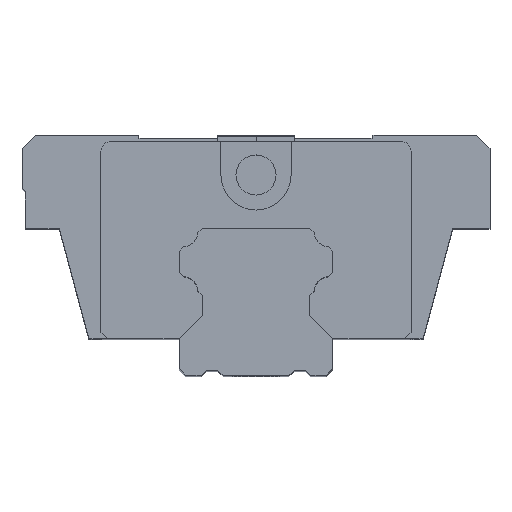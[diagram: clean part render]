
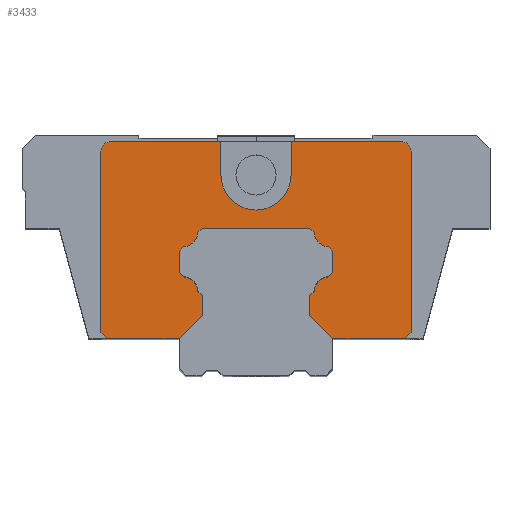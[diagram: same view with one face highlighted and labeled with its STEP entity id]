
A CAD part, top view. The second image highlights one B-rep face of the part: STEP entity #3433.
In plain terms, the highlighted planar face has unit normal (0, 0, 1).
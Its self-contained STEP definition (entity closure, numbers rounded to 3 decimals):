
#832=DIRECTION('',(0.,1.,0.));
#833=VECTOR('',#832,5.);
#834=CARTESIAN_POINT('',(-5.25,30.,42.));
#835=LINE('',#834,#833);
#836=CARTESIAN_POINT('',(0.,30.,42.));
#837=DIRECTION('',(0.,0.,-1.));
#838=DIRECTION('',(1.,0.,0.));
#839=AXIS2_PLACEMENT_3D('',#836,#837,#838);
#841=DIRECTION('',(0.,-1.,0.));
#842=VECTOR('',#841,5.);
#843=CARTESIAN_POINT('',(5.25,35.,42.));
#844=LINE('',#843,#842);
#845=DIRECTION('',(-1.,0.,0.));
#846=VECTOR('',#845,16.45);
#847=CARTESIAN_POINT('',(21.7,35.,42.));
#848=LINE('',#847,#846);
#849=CARTESIAN_POINT('',(21.7,33.5,42.));
#850=DIRECTION('',(0.,0.,1.));
#851=DIRECTION('',(1.,0.,0.));
#852=AXIS2_PLACEMENT_3D('',#849,#850,#851);
#854=DIRECTION('',(0.,1.,0.));
#855=VECTOR('',#854,27.);
#856=CARTESIAN_POINT('',(23.2,6.5,42.));
#857=LINE('',#856,#855);
#858=DIRECTION('',(0.707,0.707,0.));
#859=VECTOR('',#858,1.414);
#860=CARTESIAN_POINT('',(22.2,5.5,42.));
#861=LINE('',#860,#859);
#862=DIRECTION('',(1.,0.,0.));
#863=VECTOR('',#862,10.7);
#864=CARTESIAN_POINT('',(11.5,5.5,42.));
#865=LINE('',#864,#863);
#866=DIRECTION('',(0.707,-0.707,0.));
#867=VECTOR('',#866,4.879);
#868=CARTESIAN_POINT('',(8.05,8.95,42.));
#869=LINE('',#868,#867);
#870=DIRECTION('',(0.,-1.,0.));
#871=VECTOR('',#870,3.);
#872=CARTESIAN_POINT('',(8.05,11.95,42.));
#873=LINE('',#872,#871);
#874=DIRECTION('',(-0.707,-0.707,0.));
#875=VECTOR('',#874,0.918);
#876=CARTESIAN_POINT('',(8.699,12.599,42.));
#877=LINE('',#876,#875);
#878=CARTESIAN_POINT('',(10.995,12.455,42.));
#879=DIRECTION('',(0.,0.,1.));
#880=DIRECTION('',(-0.063,0.998,0.));
#881=AXIS2_PLACEMENT_3D('',#878,#879,#880);
#883=DIRECTION('',(-0.707,-0.707,0.));
#884=VECTOR('',#883,0.918);
#885=CARTESIAN_POINT('',(11.5,15.4,42.));
#886=LINE('',#885,#884);
#887=DIRECTION('',(0.,-1.,0.));
#888=VECTOR('',#887,3.15);
#889=CARTESIAN_POINT('',(11.5,18.55,42.));
#890=LINE('',#889,#888);
#891=DIRECTION('',(0.707,-0.707,0.));
#892=VECTOR('',#891,0.918);
#893=CARTESIAN_POINT('',(10.851,19.199,42.));
#894=LINE('',#893,#892);
#895=CARTESIAN_POINT('',(10.995,21.495,42.));
#896=DIRECTION('',(0.,0.,1.));
#897=DIRECTION('',(-0.998,-0.063,0.));
#898=AXIS2_PLACEMENT_3D('',#895,#896,#897);
#900=DIRECTION('',(0.707,-0.707,0.));
#901=VECTOR('',#900,0.918);
#902=CARTESIAN_POINT('',(8.05,22.,42.));
#903=LINE('',#902,#901);
#904=DIRECTION('',(1.,0.,0.));
#905=VECTOR('',#904,16.1);
#906=CARTESIAN_POINT('',(-8.05,22.,42.));
#907=LINE('',#906,#905);
#908=DIRECTION('',(0.707,0.707,0.));
#909=VECTOR('',#908,0.918);
#910=CARTESIAN_POINT('',(-8.699,21.351,42.));
#911=LINE('',#910,#909);
#912=CARTESIAN_POINT('',(-10.995,21.495,42.));
#913=DIRECTION('',(0.,0.,1.));
#914=DIRECTION('',(0.063,-0.998,0.));
#915=AXIS2_PLACEMENT_3D('',#912,#913,#914);
#917=DIRECTION('',(0.707,0.707,0.));
#918=VECTOR('',#917,0.918);
#919=CARTESIAN_POINT('',(-11.5,18.55,42.));
#920=LINE('',#919,#918);
#921=DIRECTION('',(0.,1.,0.));
#922=VECTOR('',#921,3.15);
#923=CARTESIAN_POINT('',(-11.5,15.4,42.));
#924=LINE('',#923,#922);
#925=DIRECTION('',(-0.707,0.707,0.));
#926=VECTOR('',#925,0.918);
#927=CARTESIAN_POINT('',(-10.851,14.751,42.));
#928=LINE('',#927,#926);
#929=CARTESIAN_POINT('',(-10.995,12.455,42.));
#930=DIRECTION('',(0.,0.,1.));
#931=DIRECTION('',(0.998,0.063,0.));
#932=AXIS2_PLACEMENT_3D('',#929,#930,#931);
#934=DIRECTION('',(-0.707,0.707,0.));
#935=VECTOR('',#934,0.918);
#936=CARTESIAN_POINT('',(-8.05,11.95,42.));
#937=LINE('',#936,#935);
#938=DIRECTION('',(0.,1.,0.));
#939=VECTOR('',#938,3.);
#940=CARTESIAN_POINT('',(-8.05,8.95,42.));
#941=LINE('',#940,#939);
#942=DIRECTION('',(0.707,0.707,0.));
#943=VECTOR('',#942,4.879);
#944=CARTESIAN_POINT('',(-11.5,5.5,42.));
#945=LINE('',#944,#943);
#946=DIRECTION('',(1.,0.,0.));
#947=VECTOR('',#946,10.7);
#948=CARTESIAN_POINT('',(-22.2,5.5,42.));
#949=LINE('',#948,#947);
#950=DIRECTION('',(0.707,-0.707,0.));
#951=VECTOR('',#950,1.414);
#952=CARTESIAN_POINT('',(-23.2,6.5,42.));
#953=LINE('',#952,#951);
#954=DIRECTION('',(0.,-1.,0.));
#955=VECTOR('',#954,27.);
#956=CARTESIAN_POINT('',(-23.2,33.5,42.));
#957=LINE('',#956,#955);
#958=CARTESIAN_POINT('',(-21.7,33.5,42.));
#959=DIRECTION('',(0.,0.,1.));
#960=DIRECTION('',(0.,1.,0.));
#961=AXIS2_PLACEMENT_3D('',#958,#959,#960);
#963=DIRECTION('',(-1.,0.,0.));
#964=VECTOR('',#963,16.45);
#965=CARTESIAN_POINT('',(-5.25,35.,42.));
#966=LINE('',#965,#964);
#2075=CARTESIAN_POINT('',(-5.25,30.,42.));
#2076=CARTESIAN_POINT('',(-5.25,35.,42.));
#2077=VERTEX_POINT('',#2075);
#2078=VERTEX_POINT('',#2076);
#2079=CARTESIAN_POINT('',(-21.7,35.,42.));
#2080=VERTEX_POINT('',#2079);
#2081=CARTESIAN_POINT('',(-23.2,33.5,42.));
#2082=VERTEX_POINT('',#2081);
#2083=CARTESIAN_POINT('',(-23.2,6.5,42.));
#2084=VERTEX_POINT('',#2083);
#2085=CARTESIAN_POINT('',(-22.2,5.5,42.));
#2086=VERTEX_POINT('',#2085);
#2087=CARTESIAN_POINT('',(-11.5,5.5,42.));
#2088=VERTEX_POINT('',#2087);
#2089=CARTESIAN_POINT('',(-8.05,8.95,42.));
#2090=VERTEX_POINT('',#2089);
#2091=CARTESIAN_POINT('',(-8.05,11.95,42.));
#2092=VERTEX_POINT('',#2091);
#2093=CARTESIAN_POINT('',(-8.699,12.599,42.));
#2094=VERTEX_POINT('',#2093);
#2095=CARTESIAN_POINT('',(-10.851,14.751,42.));
#2096=VERTEX_POINT('',#2095);
#2097=CARTESIAN_POINT('',(-11.5,15.4,42.));
#2098=VERTEX_POINT('',#2097);
#2099=CARTESIAN_POINT('',(-11.5,18.55,42.));
#2100=VERTEX_POINT('',#2099);
#2101=CARTESIAN_POINT('',(-10.851,19.199,42.));
#2102=VERTEX_POINT('',#2101);
#2103=CARTESIAN_POINT('',(-8.699,21.351,42.));
#2104=VERTEX_POINT('',#2103);
#2105=CARTESIAN_POINT('',(-8.05,22.,42.));
#2106=VERTEX_POINT('',#2105);
#2107=CARTESIAN_POINT('',(8.05,22.,42.));
#2108=VERTEX_POINT('',#2107);
#2109=CARTESIAN_POINT('',(8.699,21.351,42.));
#2110=VERTEX_POINT('',#2109);
#2111=CARTESIAN_POINT('',(10.851,19.199,42.));
#2112=VERTEX_POINT('',#2111);
#2113=CARTESIAN_POINT('',(11.5,18.55,42.));
#2114=VERTEX_POINT('',#2113);
#2115=CARTESIAN_POINT('',(11.5,15.4,42.));
#2116=VERTEX_POINT('',#2115);
#2117=CARTESIAN_POINT('',(10.851,14.751,42.));
#2118=VERTEX_POINT('',#2117);
#2119=CARTESIAN_POINT('',(8.699,12.599,42.));
#2120=VERTEX_POINT('',#2119);
#2121=CARTESIAN_POINT('',(8.05,11.95,42.));
#2122=VERTEX_POINT('',#2121);
#2123=CARTESIAN_POINT('',(8.05,8.95,42.));
#2124=VERTEX_POINT('',#2123);
#2125=CARTESIAN_POINT('',(11.5,5.5,42.));
#2126=VERTEX_POINT('',#2125);
#2127=CARTESIAN_POINT('',(22.2,5.5,42.));
#2128=VERTEX_POINT('',#2127);
#2129=CARTESIAN_POINT('',(23.2,6.5,42.));
#2130=VERTEX_POINT('',#2129);
#2131=CARTESIAN_POINT('',(23.2,33.5,42.));
#2132=VERTEX_POINT('',#2131);
#2133=CARTESIAN_POINT('',(21.7,35.,42.));
#2134=VERTEX_POINT('',#2133);
#2135=CARTESIAN_POINT('',(5.25,35.,42.));
#2136=VERTEX_POINT('',#2135);
#2137=CARTESIAN_POINT('',(5.25,30.,42.));
#2138=VERTEX_POINT('',#2137);
#3387=CARTESIAN_POINT('',(-35.,36.,42.));
#3388=DIRECTION('',(0.,0.,1.));
#3389=DIRECTION('',(1.,0.,0.));
#3390=AXIS2_PLACEMENT_3D('',#3387,#3388,#3389);
#3391=PLANE('',#3390);
#3393=ORIENTED_EDGE('',*,*,#3392,.F.);
#3394=ORIENTED_EDGE('',*,*,#3378,.F.);
#3395=ORIENTED_EDGE('',*,*,#3303,.F.);
#3396=ORIENTED_EDGE('',*,*,#3290,.F.);
#3398=ORIENTED_EDGE('',*,*,#3397,.F.);
#3400=ORIENTED_EDGE('',*,*,#3399,.F.);
#3402=ORIENTED_EDGE('',*,*,#3401,.F.);
#3403=ORIENTED_EDGE('',*,*,#2597,.F.);
#3404=ORIENTED_EDGE('',*,*,#2582,.F.);
#3405=ORIENTED_EDGE('',*,*,#2567,.F.);
#3406=ORIENTED_EDGE('',*,*,#2552,.F.);
#3407=ORIENTED_EDGE('',*,*,#2537,.F.);
#3408=ORIENTED_EDGE('',*,*,#2522,.F.);
#3409=ORIENTED_EDGE('',*,*,#2507,.F.);
#3410=ORIENTED_EDGE('',*,*,#2492,.F.);
#3411=ORIENTED_EDGE('',*,*,#2477,.F.);
#3412=ORIENTED_EDGE('',*,*,#2462,.F.);
#3413=ORIENTED_EDGE('',*,*,#2447,.F.);
#3414=ORIENTED_EDGE('',*,*,#2432,.F.);
#3415=ORIENTED_EDGE('',*,*,#2417,.F.);
#3416=ORIENTED_EDGE('',*,*,#2402,.F.);
#3417=ORIENTED_EDGE('',*,*,#2387,.F.);
#3418=ORIENTED_EDGE('',*,*,#2372,.F.);
#3419=ORIENTED_EDGE('',*,*,#2357,.F.);
#3420=ORIENTED_EDGE('',*,*,#2342,.F.);
#3421=ORIENTED_EDGE('',*,*,#2327,.F.);
#3422=ORIENTED_EDGE('',*,*,#2312,.F.);
#3423=ORIENTED_EDGE('',*,*,#2297,.F.);
#3425=ORIENTED_EDGE('',*,*,#3424,.F.);
#3427=ORIENTED_EDGE('',*,*,#3426,.F.);
#3429=ORIENTED_EDGE('',*,*,#3428,.F.);
#3430=ORIENTED_EDGE('',*,*,#3268,.F.);
#3431=EDGE_LOOP('',(#3393,#3394,#3395,#3396,#3398,#3400,#3402,#3403,#3404,#3405,
#3406,#3407,#3408,#3409,#3410,#3411,#3412,#3413,#3414,#3415,#3416,#3417,#3418,
#3419,#3420,#3421,#3422,#3423,#3425,#3427,#3429,#3430));
#3432=FACE_OUTER_BOUND('',#3431,.F.);
#3433=ADVANCED_FACE('',(#3432),#3391,.T.);
#840=CIRCLE('',#839,5.25);
#853=CIRCLE('',#852,1.5);
#882=CIRCLE('',#881,2.3);
#899=CIRCLE('',#898,2.3);
#916=CIRCLE('',#915,2.3);
#933=CIRCLE('',#932,2.3);
#962=CIRCLE('',#961,1.5);
#2297=EDGE_CURVE('',#2086,#2088,#949,.T.);
#2312=EDGE_CURVE('',#2088,#2090,#945,.T.);
#2327=EDGE_CURVE('',#2090,#2092,#941,.T.);
#2342=EDGE_CURVE('',#2092,#2094,#937,.T.);
#2357=EDGE_CURVE('',#2094,#2096,#933,.T.);
#2372=EDGE_CURVE('',#2096,#2098,#928,.T.);
#2387=EDGE_CURVE('',#2098,#2100,#924,.T.);
#2402=EDGE_CURVE('',#2100,#2102,#920,.T.);
#2417=EDGE_CURVE('',#2102,#2104,#916,.T.);
#2432=EDGE_CURVE('',#2104,#2106,#911,.T.);
#2447=EDGE_CURVE('',#2106,#2108,#907,.T.);
#2462=EDGE_CURVE('',#2108,#2110,#903,.T.);
#2477=EDGE_CURVE('',#2110,#2112,#899,.T.);
#2492=EDGE_CURVE('',#2112,#2114,#894,.T.);
#2507=EDGE_CURVE('',#2114,#2116,#890,.T.);
#2522=EDGE_CURVE('',#2116,#2118,#886,.T.);
#2537=EDGE_CURVE('',#2118,#2120,#882,.T.);
#2552=EDGE_CURVE('',#2120,#2122,#877,.T.);
#2567=EDGE_CURVE('',#2122,#2124,#873,.T.);
#2582=EDGE_CURVE('',#2124,#2126,#869,.T.);
#2597=EDGE_CURVE('',#2126,#2128,#865,.T.);
#3268=EDGE_CURVE('',#2078,#2080,#966,.T.);
#3290=EDGE_CURVE('',#2134,#2136,#848,.T.);
#3303=EDGE_CURVE('',#2136,#2138,#844,.T.);
#3378=EDGE_CURVE('',#2138,#2077,#840,.T.);
#3392=EDGE_CURVE('',#2077,#2078,#835,.T.);
#3397=EDGE_CURVE('',#2132,#2134,#853,.T.);
#3399=EDGE_CURVE('',#2130,#2132,#857,.T.);
#3401=EDGE_CURVE('',#2128,#2130,#861,.T.);
#3424=EDGE_CURVE('',#2084,#2086,#953,.T.);
#3426=EDGE_CURVE('',#2082,#2084,#957,.T.);
#3428=EDGE_CURVE('',#2080,#2082,#962,.T.);
